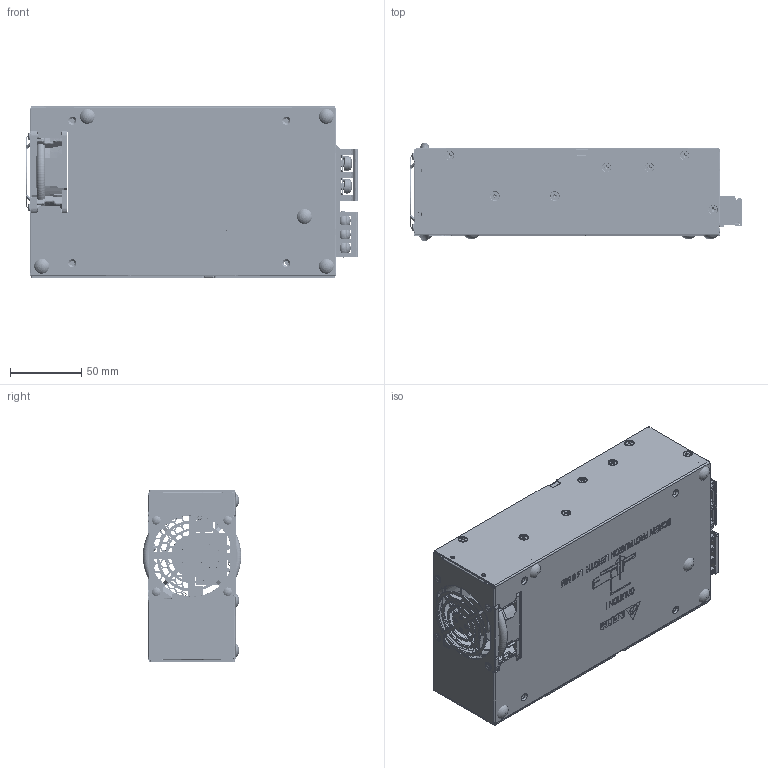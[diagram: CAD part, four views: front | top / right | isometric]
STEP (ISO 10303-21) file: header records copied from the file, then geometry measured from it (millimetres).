
FILE_DESCRIPTION((''),'2;1');
FILE_NAME('PMC-24V600W1BA_ASM','2019-05-08T',('Pattrapol.Seng'),(''),'PRO/ENGINEER BY PARAMETRIC TECHNOLOGY CORPORATION, 2010180','PRO/ENGINEER BY PARAMETRIC TECHNOLOGY CORPORATION, 2010180','');
FILE_SCHEMA(('CONFIG_CONTROL_DESIGN','SHAPE_APPEARANCE_LAYERS_GROUPS'));
Products named in the file (29): 330341690000; 330341690000_A_STUD-6-32-SHOUL; 330341690000_A_STUD-6-32; 330341690000_ASM; 324588550000; 330341850000; 3208006400; 2958058801_PWB; 307049927W_A_PIN; 307049927W_A_COVER; 307049927W_A_BT24-KO31-03-M101; 307049927W_A_T24P101-20110103; 307049927W_A_BT25U101; 307049927W_ASM; EE_VR-ADJ; EE_LED; 3076690646_A_BODY; 3076690646_A_SCREW; 3076690646_COVER; 3076690646_ASM; ASSY_PWB_PMC-24V600W1BA_ASM; 3422001200; 3422001200-2; 3103300600; 3105297100; 3101045200; WARNING-LABEL; FAN1; PMC-24V600W1BA_ASM
Assembly tree (56 placements, depth 4):
  PMC-24V600W1BA_ASM
    330341690000_ASM
      330341690000
      330341690000_A_STUD-6-32-SHOUL  x2
      330341690000_A_STUD-6-32  x3
    324588550000
    330341850000
    3208006400
    ASSY_PWB_PMC-24V600W1BA_ASM
      2958058801_PWB
      307049927W_ASM
        307049927W_A_PIN  x3
        307049927W_A_COVER
        307049927W_A_BT24-KO31-03-M101
        307049927W_A_T24P101-20110103  x3
        307049927W_A_BT25U101  x3
      EE_VR-ADJ
      EE_LED
      3076690646_ASM
        3076690646_A_BODY
        3076690646_A_SCREW  x2
        3076690646_COVER
    3422001200  x4
    3422001200-2  x4
    3103300600  x5
    3105297100  x6
    3101045200  x4
    WARNING-LABEL
    FAN1
Bounding box: 232.7 x 69 x 120 mm (x, y, z)
Surface area: 341909.6 mm2 (no closed solid volume)
Topology: 0 solids, 0 shells, 6011 faces, 32827 edges, 32725 vertices
Faces by surface type: bspline 5909, torus 78, sphere 24
Entity records: 387317 total; most frequent: CARTESIAN_POINT 140507, DIRECTION 38216, TRIMMED_CURVE 35999, VECTOR 34096, LINE 34096, DEFINITIONAL_REPRESENTATION 26547, PCURVE 26547, COMPOSITE_CURVE_SEGMENT 26547
